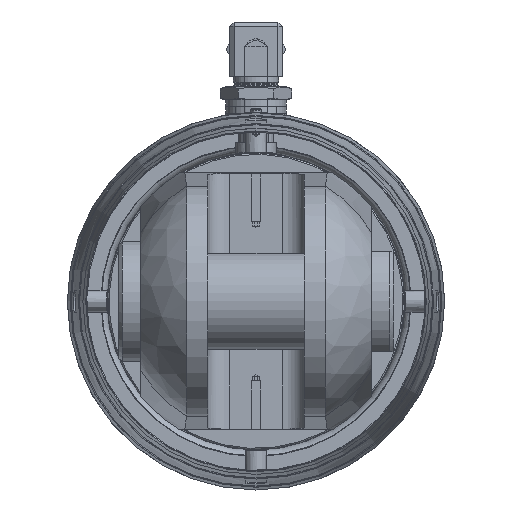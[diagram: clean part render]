
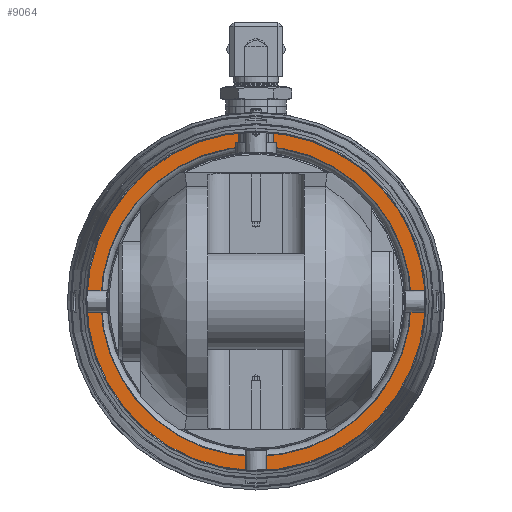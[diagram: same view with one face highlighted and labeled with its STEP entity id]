
A CAD part, left-side view. The second image highlights one B-rep face of the part: STEP entity #9064.
In plain terms, the highlighted planar face has unit normal (1, 0, 0).
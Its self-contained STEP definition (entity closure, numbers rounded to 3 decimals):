
#549=PLANE('',#9951);
#2293=FACE_BOUND('',#3246,.T.);
#2717=FACE_OUTER_BOUND('',#3245,.T.);
#3245=EDGE_LOOP('',(#8032));
#3246=EDGE_LOOP('',(#8033));
#3736=CIRCLE('',#9952,85.388);
#3737=CIRCLE('',#9953,71.75);
#4590=VERTEX_POINT('',#16268);
#4591=VERTEX_POINT('',#16270);
#5778=EDGE_CURVE('',#4590,#4590,#3736,.T.);
#5779=EDGE_CURVE('',#4591,#4591,#3737,.T.);
#8032=ORIENTED_EDGE('',*,*,#5778,.F.);
#8033=ORIENTED_EDGE('',*,*,#5779,.F.);
#9064=ADVANCED_FACE('',(#2717,#2293),#549,.T.);
#9951=AXIS2_PLACEMENT_3D('',#16267,#12113,#12114);
#9952=AXIS2_PLACEMENT_3D('',#16269,#12115,#12116);
#9953=AXIS2_PLACEMENT_3D('',#16271,#12117,#12118);
#12113=DIRECTION('center_axis',(1.,0.,0.));
#12114=DIRECTION('ref_axis',(0.,0.,-1.));
#12115=DIRECTION('center_axis',(-1.,0.,0.));
#12116=DIRECTION('ref_axis',(0.,-1.,0.));
#12117=DIRECTION('center_axis',(1.,0.,0.));
#12118=DIRECTION('ref_axis',(0.,1.,0.));
#16267=CARTESIAN_POINT('Origin',(58.,0.,0.));
#16268=CARTESIAN_POINT('',(58.,85.388,0.));
#16269=CARTESIAN_POINT('Origin',(58.,0.,0.));
#16270=CARTESIAN_POINT('',(58.,-71.75,0.));
#16271=CARTESIAN_POINT('Origin',(58.,0.,0.));
